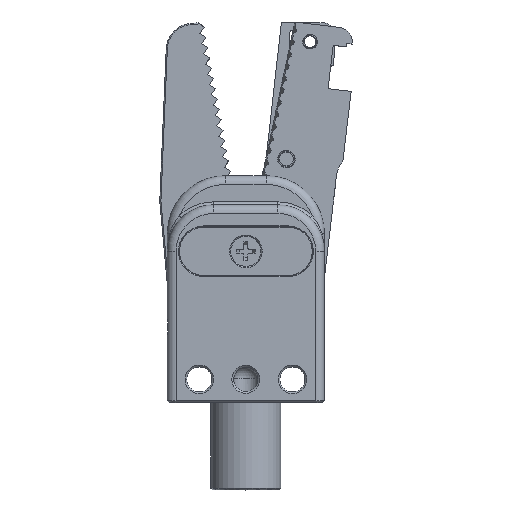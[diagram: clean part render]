
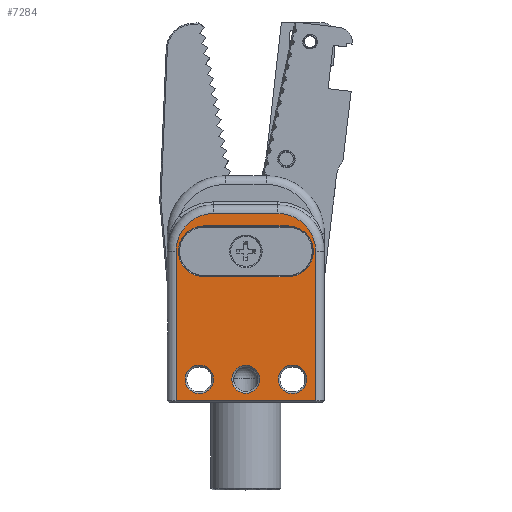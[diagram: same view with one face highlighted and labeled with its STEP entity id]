
A CAD part, top view. The second image highlights one B-rep face of the part: STEP entity #7284.
In plain terms, the highlighted planar face has unit normal (0, 0, 1).
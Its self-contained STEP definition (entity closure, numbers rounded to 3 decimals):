
#4361=FACE_BOUND('',#8491,.T.);
#4362=FACE_BOUND('',#8492,.T.);
#4363=FACE_BOUND('',#8493,.T.);
#4364=FACE_BOUND('',#8494,.T.);
#4365=FACE_BOUND('',#8495,.T.);
#4517=PLANE('',#15360);
#5007=LINE('',#19481,#6161);
#5008=LINE('',#19485,#6162);
#5013=LINE('',#19498,#6167);
#5031=LINE('',#19663,#6185);
#5032=LINE('',#19667,#6186);
#5033=LINE('',#19669,#6187);
#6161=VECTOR('',#16383,1.);
#6162=VECTOR('',#16388,1.);
#6167=VECTOR('',#16401,1.);
#6185=VECTOR('',#16493,1.);
#6186=VECTOR('',#16500,1.);
#6187=VECTOR('',#16503,1.);
#7284=ADVANCED_FACE('',(#4361,#4362,#4363,#4364,#4365),#4517,.F.);
#8491=EDGE_LOOP('',(#9855,#9856,#9857,#9858));
#8492=EDGE_LOOP('',(#9859,#9860,#9861,#9862,#9863,#9864));
#8493=EDGE_LOOP('',(#9865));
#8494=EDGE_LOOP('',(#9866));
#8495=EDGE_LOOP('',(#9867));
#9109=CIRCLE('',#15241,2.45);
#9112=CIRCLE('',#15246,2.45);
#9114=CIRCLE('',#15249,2.4);
#9116=CIRCLE('',#15252,4.35);
#9147=CIRCLE('',#15315,4.35);
#9158=CIRCLE('',#15335,6.5);
#9159=CIRCLE('',#15337,6.5);
#9855=ORIENTED_EDGE('',*,*,#13840,.T.);
#9856=ORIENTED_EDGE('',*,*,#13836,.T.);
#9857=ORIENTED_EDGE('',*,*,#13833,.T.);
#9858=ORIENTED_EDGE('',*,*,#13711,.T.);
#9859=ORIENTED_EDGE('',*,*,#13888,.T.);
#9860=ORIENTED_EDGE('',*,*,#13886,.T.);
#9861=ORIENTED_EDGE('',*,*,#13889,.T.);
#9862=ORIENTED_EDGE('',*,*,#13866,.T.);
#9863=ORIENTED_EDGE('',*,*,#13831,.T.);
#9864=ORIENTED_EDGE('',*,*,#13865,.T.);
#9865=ORIENTED_EDGE('',*,*,#13706,.T.);
#9866=ORIENTED_EDGE('',*,*,#13708,.T.);
#9867=ORIENTED_EDGE('',*,*,#13698,.T.);
#12662=VERTEX_POINT('',#19117);
#12670=VERTEX_POINT('',#19180);
#12672=VERTEX_POINT('',#19185);
#12675=VERTEX_POINT('',#19191);
#12676=VERTEX_POINT('',#19193);
#12767=VERTEX_POINT('',#19480);
#12768=VERTEX_POINT('',#19482);
#12769=VERTEX_POINT('',#19486);
#12771=VERTEX_POINT('',#19492);
#12787=VERTEX_POINT('',#19621);
#12788=VERTEX_POINT('',#19625);
#12793=VERTEX_POINT('',#19658);
#12794=VERTEX_POINT('',#19662);
#13698=EDGE_CURVE('',#12662,#12662,#9109,.T.);
#13706=EDGE_CURVE('',#12670,#12670,#9112,.T.);
#13708=EDGE_CURVE('',#12672,#12672,#9114,.T.);
#13711=EDGE_CURVE('',#12676,#12675,#9116,.T.);
#13831=EDGE_CURVE('',#12768,#12767,#5007,.T.);
#13833=EDGE_CURVE('',#12769,#12676,#5008,.T.);
#13836=EDGE_CURVE('',#12771,#12769,#9147,.T.);
#13840=EDGE_CURVE('',#12675,#12771,#5013,.T.);
#13865=EDGE_CURVE('',#12767,#12787,#9158,.T.);
#13866=EDGE_CURVE('',#12788,#12768,#9159,.T.);
#13886=EDGE_CURVE('',#12793,#12794,#5031,.T.);
#13888=EDGE_CURVE('',#12787,#12793,#5032,.T.);
#13889=EDGE_CURVE('',#12794,#12788,#5033,.T.);
#15241=AXIS2_PLACEMENT_3D('',#19116,#16166,#16167);
#15246=AXIS2_PLACEMENT_3D('',#19179,#16176,#16177);
#15249=AXIS2_PLACEMENT_3D('',#19184,#16182,#16183);
#15252=AXIS2_PLACEMENT_3D('',#19192,#16189,#16190);
#15315=AXIS2_PLACEMENT_3D('',#19491,#16393,#16394);
#15335=AXIS2_PLACEMENT_3D('',#19622,#16443,#16444);
#15337=AXIS2_PLACEMENT_3D('',#19624,#16447,#16448);
#15360=AXIS2_PLACEMENT_3D('',#19671,#16506,#16507);
#16166=DIRECTION('',(0.,0.,-1.));
#16167=DIRECTION('',(-1.,0.,0.));
#16176=DIRECTION('',(0.,0.,-1.));
#16177=DIRECTION('',(-1.,0.,0.));
#16182=DIRECTION('',(0.,0.,-1.));
#16183=DIRECTION('',(-1.,0.,0.));
#16189=DIRECTION('',(0.,0.,-1.));
#16190=DIRECTION('',(-1.,0.,0.));
#16383=DIRECTION('',(-1.,0.,0.));
#16388=DIRECTION('',(1.,0.,0.));
#16393=DIRECTION('',(0.,0.,-1.));
#16394=DIRECTION('',(-1.,0.,0.));
#16401=DIRECTION('',(-1.,0.,0.));
#16443=DIRECTION('',(0.,0.,1.));
#16444=DIRECTION('',(-1.,0.,0.));
#16447=DIRECTION('',(0.,0.,1.));
#16448=DIRECTION('',(-1.,0.,0.));
#16493=DIRECTION('',(1.,0.,0.));
#16500=DIRECTION('',(0.,-1.,0.));
#16503=DIRECTION('',(0.,1.,0.));
#16506=DIRECTION('',(0.,0.,-1.));
#16507=DIRECTION('',(1.,0.,0.));
#19116=CARTESIAN_POINT('',(80.412,-19.942,82.4));
#19117=CARTESIAN_POINT('',(77.962,-19.942,82.4));
#19179=CARTESIAN_POINT('',(96.412,-19.942,82.4));
#19180=CARTESIAN_POINT('',(93.962,-19.942,82.4));
#19184=CARTESIAN_POINT('',(88.412,-19.942,82.4));
#19185=CARTESIAN_POINT('',(86.012,-19.942,82.4));
#19191=CARTESIAN_POINT('',(95.662,-2.292,82.4));
#19192=CARTESIAN_POINT('',(95.662,2.058,82.4));
#19193=CARTESIAN_POINT('',(95.662,6.408,82.4));
#19480=CARTESIAN_POINT('',(82.912,8.558,82.4));
#19481=CARTESIAN_POINT('',(82.912,8.558,82.4));
#19482=CARTESIAN_POINT('',(93.912,8.558,82.4));
#19485=CARTESIAN_POINT('',(100.912,6.408,82.4));
#19486=CARTESIAN_POINT('',(81.162,6.408,82.4));
#19491=CARTESIAN_POINT('',(81.162,2.058,82.4));
#19492=CARTESIAN_POINT('',(81.162,-2.292,82.4));
#19498=CARTESIAN_POINT('',(100.912,-2.292,82.4));
#19621=CARTESIAN_POINT('',(76.412,2.058,82.4));
#19622=CARTESIAN_POINT('',(82.912,2.058,82.4));
#19624=CARTESIAN_POINT('',(93.912,2.058,82.4));
#19625=CARTESIAN_POINT('',(100.412,2.058,82.4));
#19658=CARTESIAN_POINT('',(76.412,-23.642,82.4));
#19662=CARTESIAN_POINT('',(100.412,-23.642,82.4));
#19663=CARTESIAN_POINT('',(100.412,-23.642,82.4));
#19667=CARTESIAN_POINT('',(76.412,-23.942,82.4));
#19669=CARTESIAN_POINT('',(100.412,2.058,82.4));
#19671=CARTESIAN_POINT('',(100.912,-23.942,82.4));
